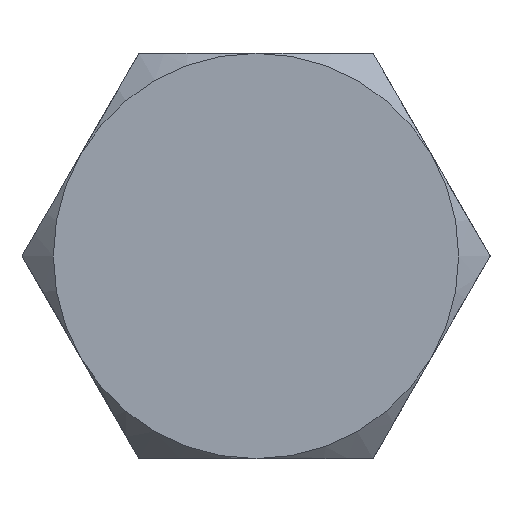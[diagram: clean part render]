
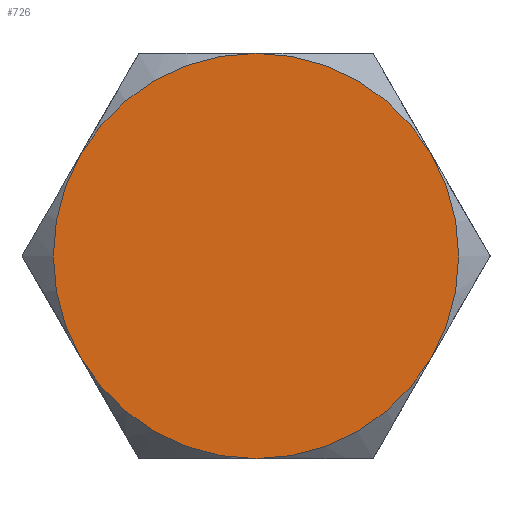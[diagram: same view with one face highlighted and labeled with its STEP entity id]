
A CAD part, front view. The second image highlights one B-rep face of the part: STEP entity #726.
In plain terms, the highlighted planar face has unit normal (0, -1, 0).
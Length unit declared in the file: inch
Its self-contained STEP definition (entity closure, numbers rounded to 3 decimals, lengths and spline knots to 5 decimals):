
#51=PLANE('',#836);
#120=FACE_OUTER_BOUND('',#168,.T.);
#168=EDGE_LOOP('',(#667,#668,#669,#670,#671,#672));
#265=CIRCLE('',#813,0.75);
#267=CIRCLE('',#816,0.75);
#269=CIRCLE('',#819,0.75);
#271=CIRCLE('',#822,0.75);
#273=CIRCLE('',#825,0.75);
#276=CIRCLE('',#834,0.75);
#316=VERTEX_POINT('',#1282);
#321=VERTEX_POINT('',#1302);
#326=VERTEX_POINT('',#1322);
#331=VERTEX_POINT('',#1342);
#336=VERTEX_POINT('',#1362);
#341=VERTEX_POINT('',#1382);
#443=EDGE_CURVE('',#336,#341,#265,.T.);
#445=EDGE_CURVE('',#331,#336,#267,.T.);
#447=EDGE_CURVE('',#326,#331,#269,.T.);
#449=EDGE_CURVE('',#321,#326,#271,.T.);
#451=EDGE_CURVE('',#316,#321,#273,.T.);
#454=EDGE_CURVE('',#341,#316,#276,.T.);
#667=ORIENTED_EDGE('',*,*,#454,.F.);
#668=ORIENTED_EDGE('',*,*,#443,.F.);
#669=ORIENTED_EDGE('',*,*,#445,.F.);
#670=ORIENTED_EDGE('',*,*,#447,.F.);
#671=ORIENTED_EDGE('',*,*,#449,.F.);
#672=ORIENTED_EDGE('',*,*,#451,.F.);
#726=ADVANCED_FACE('',(#120),#51,.T.);
#813=AXIS2_PLACEMENT_3D('',#1414,#1007,#1008);
#816=AXIS2_PLACEMENT_3D('',#1417,#1013,#1014);
#819=AXIS2_PLACEMENT_3D('',#1420,#1019,#1020);
#822=AXIS2_PLACEMENT_3D('',#1423,#1025,#1026);
#825=AXIS2_PLACEMENT_3D('',#1426,#1031,#1032);
#834=AXIS2_PLACEMENT_3D('',#1435,#1049,#1050);
#836=AXIS2_PLACEMENT_3D('',#1437,#1053,#1054);
#1007=DIRECTION('center_axis',(0.,1.,0.));
#1008=DIRECTION('ref_axis',(0.,0.,1.));
#1013=DIRECTION('center_axis',(0.,1.,0.));
#1014=DIRECTION('ref_axis',(0.,0.,1.));
#1019=DIRECTION('center_axis',(0.,1.,0.));
#1020=DIRECTION('ref_axis',(0.,0.,1.));
#1025=DIRECTION('center_axis',(0.,1.,0.));
#1026=DIRECTION('ref_axis',(0.,0.,1.));
#1031=DIRECTION('center_axis',(0.,1.,0.));
#1032=DIRECTION('ref_axis',(0.,0.,1.));
#1049=DIRECTION('center_axis',(0.,1.,0.));
#1050=DIRECTION('ref_axis',(0.,0.,1.));
#1053=DIRECTION('center_axis',(0.,-1.,0.));
#1054=DIRECTION('ref_axis',(0.,0.,-1.));
#1282=CARTESIAN_POINT('',(-0.64952,0.,-0.375));
#1302=CARTESIAN_POINT('',(-0.64952,0.,0.375));
#1322=CARTESIAN_POINT('',(0.,0.,0.75));
#1342=CARTESIAN_POINT('',(0.64952,0.,0.375));
#1362=CARTESIAN_POINT('',(0.64952,0.,-0.375));
#1382=CARTESIAN_POINT('',(0.,0.,-0.75));
#1414=CARTESIAN_POINT('Origin',(0.,0.,0.));
#1417=CARTESIAN_POINT('Origin',(0.,0.,0.));
#1420=CARTESIAN_POINT('Origin',(0.,0.,0.));
#1423=CARTESIAN_POINT('Origin',(0.,0.,0.));
#1426=CARTESIAN_POINT('Origin',(0.,0.,0.));
#1435=CARTESIAN_POINT('Origin',(0.,0.,0.));
#1437=CARTESIAN_POINT('Origin',(0.,0.,0.));
